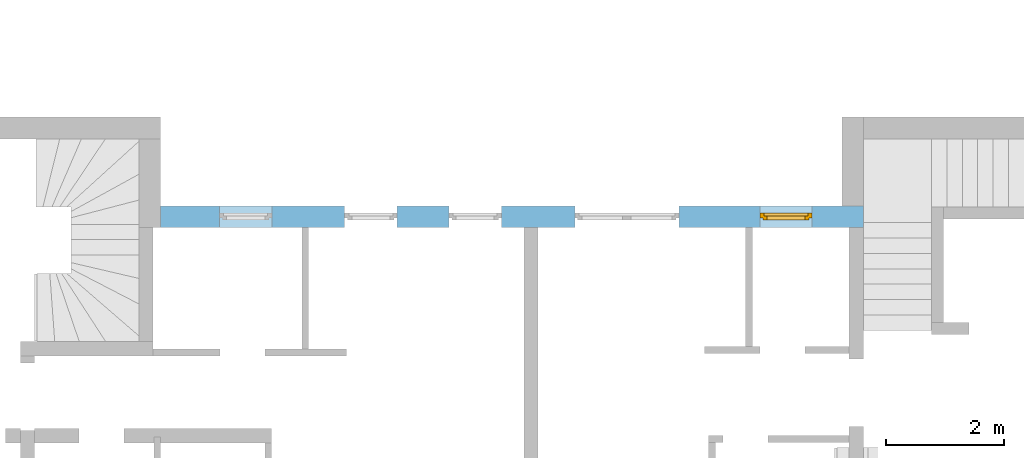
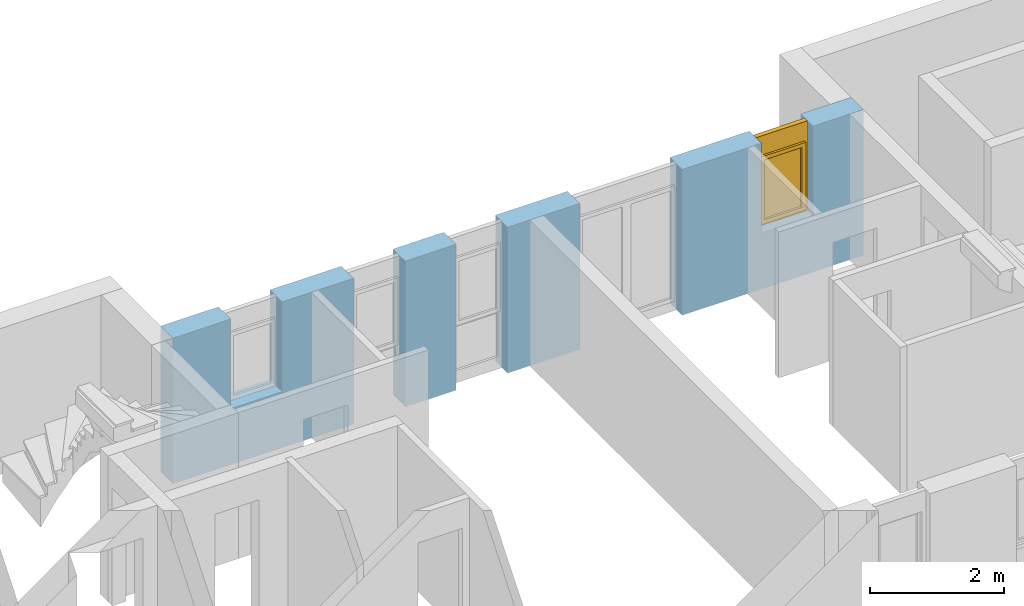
# One storey, part 37 of 42: 1 window, 5 openings, plus 1 element that does not belong to this part.
"""IFC2X3 building model written with IfcOpenShell, lengths in millimetres."""

from ifc_helpers import new_model, entity, si_unit, converted_unit, frame, frame_2d, origin, origin_with_axes, place, context, subcontext, project, spatial, rectangle, extrude, faceted_brep, material, layer, layer_set, layer_usage, type_object, element, fill, save


model = new_model("IFC2X3")

# Units and contexts
model_context = context("Model", 3, precision=1e-05, world=origin())
body_context = subcontext(model_context, "Body", "Model", "MODEL_VIEW")
ifc_project = project(units=[si_unit("LENGTHUNIT", "METRE", prefix="MILLI"), converted_unit("PLANEANGLEUNIT", "DEGREE", entity("IfcPlaneAngleMeasure", 0.0174532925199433), si_unit("PLANEANGLEUNIT", "RADIAN"), dimensions=[0, 0, 0, 0, 0, 0, 0]), si_unit("AREAUNIT", "SQUARE_METRE"), si_unit("VOLUMEUNIT", "CUBIC_METRE")], contexts=[model_context])

# Building, storey
building_placement = place(None, origin())
building = spatial("IfcBuilding", under=ifc_project, at=building_placement, Name="Gebäude", CompositionType="ELEMENT")
storey_placement = place(building_placement, frame((0.0, 0.0, 2730.0), z_axis=(0.0, 0.0, 1.0), x_axis=(1.0, 0.0, 0.0)))
storey = spatial("IfcBuildingStorey", under=building, at=storey_placement, Name="OG.- Grundriss", CompositionType="ELEMENT", Elevation=2730.0)

# Wall, openings, window
ifc_material_1 = material(Name="Poroton")
ifc_layer = layer(ifc_material_1, 365.0000000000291)
ifc_layer_set = layer_set([ifc_layer])
ifc_layer_usage = layer_usage(ifc_layer_set, "AXIS2", "POSITIVE", 0.0)
wall_placement = place(storey_placement, frame((176237.7928067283, 134774.8877324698, 0.0), z_axis=(0.0, 0.0, 1.0), x_axis=(-1.0, 0.0, 0.0)))
wall = element("IfcWallStandardCase", 1, at=wall_placement, inside=storey, material=ifc_layer_usage, Name="<Unnamed Element>", context=body_context, shape_type="SweptSolid", body=[
    extrude(rectangle(XDim=11869.99999999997, YDim=365.0000000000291, at=frame_2d((5934.999999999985, 182.5000000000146), x_axis=(1.0, 0.0))), origin_with_axes(), (0.0, 0.0, 1.0), 2650.0),
])
opening_1_placement = place(wall_placement, frame((7875.000000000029, 0.0, 0.0), z_axis=(0.0, 1.0, 0.0), x_axis=(0.0, 0.0, 1.0)))
element("IfcOpeningElement", 2, at=opening_1_placement, cuts=wall, Name="Fensteröffnung", ObjectType="Opening", context=body_context, shape_type="SweptSolid", body=[
    extrude(rectangle(XDim=2650.0, YDim=885.0, at=frame_2d((1325.0, 442.5), x_axis=(1.0, 0.0))), origin_with_axes(), (0.0, 0.0, 1.0), 365.0000000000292),
])
opening_2_placement = place(wall_placement, frame((6115.000000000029, 0.0, 0.0), z_axis=(0.0, 1.0, 0.0), x_axis=(0.0, 0.0, 1.0)))
element("IfcOpeningElement", 3, at=opening_2_placement, cuts=wall, Name="Fensteröffnung", ObjectType="Opening", context=body_context, shape_type="SweptSolid", body=[
    extrude(rectangle(XDim=2650.0, YDim=885.0, at=frame_2d((1325.0, 442.5), x_axis=(1.0, 0.0))), origin_with_axes(), (0.0, 0.0, 1.0), 365.0000000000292),
])
opening_3_placement = place(wall_placement, frame((9990.00000000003, 0.0, 1020.0), z_axis=(0.0, 1.0, 0.0), x_axis=(0.0, 0.0, 1.0)))
element("IfcOpeningElement", 4, at=opening_3_placement, cuts=wall, Name="Fensteröffnung", ObjectType="Opening", context=body_context, shape_type="SweptSolid", body=[
    extrude(rectangle(XDim=1630.0, YDim=885.0, at=frame_2d((815.0, 442.5), x_axis=(1.0, 0.0))), origin_with_axes(), (0.0, 0.0, 1.0), 365.0000000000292),
])
opening_4_placement = place(wall_placement, frame((3115.000000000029, 0.0, 0.0), z_axis=(0.0, 1.0, 0.0), x_axis=(0.0, 0.0, 1.0)))
element("IfcOpeningElement", 5, at=opening_4_placement, cuts=wall, Name="Fensteröffnung", ObjectType="Opening", context=body_context, shape_type="SweptSolid", body=[
    extrude(rectangle(XDim=2650.0, YDim=1760.0, at=frame_2d((1325.0, 880.0), x_axis=(1.0, 0.0))), origin_with_axes(), (0.0, 0.0, 1.0), 365.0000000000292),
])
opening_5_placement = place(wall_placement, frame((865.0000000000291, 0.0, 1020.0), z_axis=(0.0, 1.0, 0.0), x_axis=(0.0, 0.0, 1.0)))
opening_5 = element("IfcOpeningElement", 6, at=opening_5_placement, cuts=wall, Name="Fensteröffnung", ObjectType="Opening", context=body_context, shape_type="SweptSolid", body=[
    extrude(rectangle(XDim=1630.0, YDim=885.0, at=frame_2d((815.0, 442.5), x_axis=(1.0, 0.0))), origin_with_axes(), (0.0, 0.0, 1.0), 365.0000000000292),
])
ifc_material_2 = material()
window_style = type_object("IfcWindowStyle", Name="Fenster", ConstructionType="NOTDEFINED", OperationType="USERDEFINED", ParameterTakesPrecedence=False, Sizeable=False)
window_placement = place(opening_5_placement, frame((0.0, 0.0, 0.0), z_axis=(1.0, 0.0, 0.0), x_axis=(0.0, 1.0, 0.0)))
window = element("IfcWindow", 7, at=window_placement, inside=storey, type_object=window_style, material=ifc_material_2, Name="Fenster", OverallHeight=1630.0, OverallWidth=885.0, context=body_context, shape_type="Brep", body=[
    faceted_brep([(9.797174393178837e-15, 200.000000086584, 1630.0), (9.797174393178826e-15, 200.0000000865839, -2.449293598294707e-15), (70.00000000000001, 200.0000000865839, -2.449293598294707e-15), (70.00000000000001, 200.000000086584, 1630.0), (0.0, 120.0000000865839, 2.449293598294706e-15), (1.218229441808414e-29, 120.000000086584, 1630.0), (70.0, 120.000000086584, 1630.0), (70.0, 120.0000000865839, 2.449293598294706e-15), (9.797174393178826e-15, 200.0000000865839, -2.449293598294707e-15), (9.797174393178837e-15, 200.000000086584, 1630.0), (1.218229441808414e-29, 120.000000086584, 1630.0), (0.0, 120.0000000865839, 2.449293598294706e-15), (70.00000000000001, 200.0000000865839, -2.449293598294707e-15), (9.797174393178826e-15, 200.0000000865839, -2.449293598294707e-15), (0.0, 120.0000000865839, 2.449293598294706e-15), (70.0, 120.0000000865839, 2.449293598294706e-15), (70.00000000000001, 200.000000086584, 1630.0), (70.00000000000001, 200.0000000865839, -2.449293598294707e-15), (70.0, 120.0000000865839, 2.449293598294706e-15), (70.0, 120.000000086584, 1630.0), (9.797174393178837e-15, 200.000000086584, 1630.0), (70.00000000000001, 200.000000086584, 1630.0), (70.0, 120.000000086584, 1630.0), (1.218229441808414e-29, 120.000000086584, 1630.0)], [[[0, 1, 2, 3]], [[4, 5, 6, 7]], [[8, 9, 10, 11]], [[12, 13, 14, 15]], [[16, 17, 18, 19]], [[20, 21, 22, 23]]], orient=[[False], [False], [False], [False], [False], [False]]),
    faceted_brep([(815.0000000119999, 200.0000000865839, 1630.0), (815.0000000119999, 200.0000000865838, -2.449293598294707e-15), (885.0000000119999, 200.0000000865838, -2.449293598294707e-15), (885.0000000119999, 200.0000000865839, 1630.0), (815.0000000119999, 120.0000000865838, 2.449293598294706e-15), (815.0000000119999, 120.0000000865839, 1630.0), (885.0000000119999, 120.0000000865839, 1630.0), (885.0000000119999, 120.0000000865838, 2.449293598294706e-15), (815.0000000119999, 200.0000000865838, -2.449293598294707e-15), (815.0000000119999, 200.0000000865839, 1630.0), (815.0000000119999, 120.0000000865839, 1630.0), (815.0000000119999, 120.0000000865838, 2.449293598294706e-15), (885.0000000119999, 200.0000000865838, -2.449293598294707e-15), (815.0000000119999, 200.0000000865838, -2.449293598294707e-15), (815.0000000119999, 120.0000000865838, 2.449293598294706e-15), (885.0000000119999, 120.0000000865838, 2.449293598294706e-15), (885.0000000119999, 200.0000000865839, 1630.0), (885.0000000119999, 200.0000000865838, -2.449293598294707e-15), (885.0000000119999, 120.0000000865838, 2.449293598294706e-15), (885.0000000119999, 120.0000000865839, 1630.0), (815.0000000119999, 200.0000000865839, 1630.0), (885.0000000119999, 200.0000000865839, 1630.0), (885.0000000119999, 120.0000000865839, 1630.0), (815.0000000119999, 120.0000000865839, 1630.0)], [[[0, 1, 2, 3]], [[4, 5, 6, 7]], [[8, 9, 10, 11]], [[12, 13, 14, 15]], [[16, 17, 18, 19]], [[20, 21, 22, 23]]], orient=[[False], [False], [False], [False], [False], [False]]),
    faceted_brep([(70.00000000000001, 200.0000000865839, 69.99999999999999), (70.00000000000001, 200.0000000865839, -2.449293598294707e-15), (815.0000000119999, 200.0000000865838, -2.449293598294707e-15), (815.0000000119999, 200.0000000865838, 69.99999999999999), (70.0, 120.0000000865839, 2.449293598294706e-15), (70.0, 120.0000000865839, 69.99999999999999), (815.0000000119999, 120.0000000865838, 69.99999999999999), (815.0000000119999, 120.0000000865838, 2.449293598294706e-15), (70.00000000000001, 200.0000000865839, -2.449293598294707e-15), (70.00000000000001, 200.0000000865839, 69.99999999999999), (70.0, 120.0000000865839, 69.99999999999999), (70.0, 120.0000000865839, 2.449293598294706e-15), (815.0000000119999, 200.0000000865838, -2.449293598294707e-15), (70.00000000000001, 200.0000000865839, -2.449293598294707e-15), (70.0, 120.0000000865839, 2.449293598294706e-15), (815.0000000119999, 120.0000000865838, 2.449293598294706e-15), (815.0000000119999, 200.0000000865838, 69.99999999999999), (815.0000000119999, 200.0000000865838, -2.449293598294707e-15), (815.0000000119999, 120.0000000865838, 2.449293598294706e-15), (815.0000000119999, 120.0000000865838, 69.99999999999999), (70.00000000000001, 200.0000000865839, 69.99999999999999), (815.0000000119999, 200.0000000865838, 69.99999999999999), (815.0000000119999, 120.0000000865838, 69.99999999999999), (70.0, 120.0000000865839, 69.99999999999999)], [[[0, 1, 2, 3]], [[4, 5, 6, 7]], [[8, 9, 10, 11]], [[12, 13, 14, 15]], [[16, 17, 18, 19]], [[20, 21, 22, 23]]], orient=[[False], [False], [False], [False], [False], [False]]),
    faceted_brep([(70.00000000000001, 200.000000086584, 1630.0), (70.00000000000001, 200.000000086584, 1260.0), (815.0000000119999, 200.0000000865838, 1260.0), (815.0000000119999, 200.0000000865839, 1630.0), (70.0, 120.000000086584, 1260.0), (70.0, 120.000000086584, 1630.0), (815.0000000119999, 120.0000000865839, 1630.0), (815.0000000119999, 120.0000000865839, 1260.0), (70.00000000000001, 200.000000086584, 1260.0), (70.00000000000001, 200.000000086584, 1630.0), (70.0, 120.000000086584, 1630.0), (70.0, 120.000000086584, 1260.0), (815.0000000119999, 200.0000000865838, 1260.0), (70.00000000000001, 200.000000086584, 1260.0), (70.0, 120.000000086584, 1260.0), (815.0000000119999, 120.0000000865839, 1260.0), (815.0000000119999, 200.0000000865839, 1630.0), (815.0000000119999, 200.0000000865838, 1260.0), (815.0000000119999, 120.0000000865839, 1260.0), (815.0000000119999, 120.0000000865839, 1630.0), (70.00000000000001, 200.000000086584, 1630.0), (815.0000000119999, 200.0000000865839, 1630.0), (815.0000000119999, 120.0000000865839, 1630.0), (70.0, 120.000000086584, 1630.0)], [[[0, 1, 2, 3]], [[4, 5, 6, 7]], [[8, 9, 10, 11]], [[12, 13, 14, 15]], [[16, 17, 18, 19]], [[20, 21, 22, 23]]], orient=[[False], [False], [False], [False], [False], [False]]),
    faceted_brep([(50.00000000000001, 240.000000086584, 1280.0), (50.00000000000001, 240.0000000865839, 49.99999999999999), (120.0, 240.0000000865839, 49.99999999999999), (120.0, 240.000000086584, 1280.0), (50.00000000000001, 170.0000000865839, 50.0), (50.00000000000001, 170.000000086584, 1280.0), (120.0, 170.000000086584, 1280.0), (120.0, 170.0000000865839, 50.0), (50.00000000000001, 240.0000000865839, 49.99999999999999), (50.00000000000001, 240.000000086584, 1280.0), (50.00000000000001, 170.000000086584, 1280.0), (50.00000000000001, 170.0000000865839, 50.0), (120.0, 240.0000000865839, 49.99999999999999), (50.00000000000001, 240.0000000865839, 49.99999999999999), (50.00000000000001, 170.0000000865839, 50.0), (120.0, 170.0000000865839, 50.0), (120.0, 240.000000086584, 1280.0), (120.0, 240.0000000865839, 49.99999999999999), (120.0, 170.0000000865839, 50.0), (120.0, 170.000000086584, 1280.0), (50.00000000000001, 240.000000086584, 1280.0), (120.0, 240.000000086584, 1280.0), (120.0, 170.000000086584, 1280.0), (50.00000000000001, 170.000000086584, 1280.0)], [[[0, 1, 2, 3]], [[4, 5, 6, 7]], [[8, 9, 10, 11]], [[12, 13, 14, 15]], [[16, 17, 18, 19]], [[20, 21, 22, 23]]], orient=[[False], [False], [False], [False], [False], [False]]),
    faceted_brep([(765.0000000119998, 240.0000000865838, 1280.0), (765.0000000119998, 240.0000000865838, 49.99999999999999), (835.0000000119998, 240.0000000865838, 49.99999999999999), (835.0000000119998, 240.0000000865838, 1280.0), (765.0000000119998, 170.0000000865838, 50.0), (765.0000000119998, 170.0000000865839, 1280.0), (835.0000000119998, 170.0000000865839, 1280.0), (835.0000000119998, 170.0000000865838, 50.0), (765.0000000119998, 240.0000000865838, 49.99999999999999), (765.0000000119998, 240.0000000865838, 1280.0), (765.0000000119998, 170.0000000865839, 1280.0), (765.0000000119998, 170.0000000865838, 50.0), (835.0000000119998, 240.0000000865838, 49.99999999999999), (765.0000000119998, 240.0000000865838, 49.99999999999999), (765.0000000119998, 170.0000000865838, 50.0), (835.0000000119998, 170.0000000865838, 50.0), (835.0000000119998, 240.0000000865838, 1280.0), (835.0000000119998, 240.0000000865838, 49.99999999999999), (835.0000000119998, 170.0000000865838, 50.0), (835.0000000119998, 170.0000000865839, 1280.0), (765.0000000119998, 240.0000000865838, 1280.0), (835.0000000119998, 240.0000000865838, 1280.0), (835.0000000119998, 170.0000000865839, 1280.0), (765.0000000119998, 170.0000000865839, 1280.0)], [[[0, 1, 2, 3]], [[4, 5, 6, 7]], [[8, 9, 10, 11]], [[12, 13, 14, 15]], [[16, 17, 18, 19]], [[20, 21, 22, 23]]], orient=[[False], [False], [False], [False], [False], [False]]),
    faceted_brep([(120.0, 240.0000000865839, 120.0), (120.0, 240.0000000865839, 49.99999999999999), (765.0000000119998, 240.0000000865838, 49.99999999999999), (765.0000000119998, 240.0000000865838, 120.0), (120.0, 170.0000000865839, 50.0), (120.0, 170.0000000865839, 120.0), (765.0000000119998, 170.0000000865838, 120.0), (765.0000000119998, 170.0000000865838, 50.0), (120.0, 240.0000000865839, 49.99999999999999), (120.0, 240.0000000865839, 120.0), (120.0, 170.0000000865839, 120.0), (120.0, 170.0000000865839, 50.0), (765.0000000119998, 240.0000000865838, 49.99999999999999), (120.0, 240.0000000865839, 49.99999999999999), (120.0, 170.0000000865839, 50.0), (765.0000000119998, 170.0000000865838, 50.0), (765.0000000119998, 240.0000000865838, 120.0), (765.0000000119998, 240.0000000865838, 49.99999999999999), (765.0000000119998, 170.0000000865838, 50.0), (765.0000000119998, 170.0000000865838, 120.0), (120.0, 240.0000000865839, 120.0), (765.0000000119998, 240.0000000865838, 120.0), (765.0000000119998, 170.0000000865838, 120.0), (120.0, 170.0000000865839, 120.0)], [[[0, 1, 2, 3]], [[4, 5, 6, 7]], [[8, 9, 10, 11]], [[12, 13, 14, 15]], [[16, 17, 18, 19]], [[20, 21, 22, 23]]], orient=[[False], [False], [False], [False], [False], [False]]),
    faceted_brep([(120.0, 240.000000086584, 1280.0), (120.0, 240.000000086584, 1210.0), (765.0000000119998, 240.0000000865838, 1210.0), (765.0000000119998, 240.0000000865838, 1280.0), (120.0, 170.000000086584, 1210.0), (120.0, 170.000000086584, 1280.0), (765.0000000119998, 170.0000000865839, 1280.0), (765.0000000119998, 170.0000000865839, 1210.0), (120.0, 240.000000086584, 1210.0), (120.0, 240.000000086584, 1280.0), (120.0, 170.000000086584, 1280.0), (120.0, 170.000000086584, 1210.0), (765.0000000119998, 240.0000000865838, 1210.0), (120.0, 240.000000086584, 1210.0), (120.0, 170.000000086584, 1210.0), (765.0000000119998, 170.0000000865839, 1210.0), (765.0000000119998, 240.0000000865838, 1280.0), (765.0000000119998, 240.0000000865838, 1210.0), (765.0000000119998, 170.0000000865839, 1210.0), (765.0000000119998, 170.0000000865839, 1280.0), (120.0, 240.000000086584, 1280.0), (765.0000000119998, 240.0000000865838, 1280.0), (765.0000000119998, 170.0000000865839, 1280.0), (120.0, 170.000000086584, 1280.0)], [[[0, 1, 2, 3]], [[4, 5, 6, 7]], [[8, 9, 10, 11]], [[12, 13, 14, 15]], [[16, 17, 18, 19]], [[20, 21, 22, 23]]], orient=[[False], [False], [False], [False], [False], [False]]),
    faceted_brep([(120.0, 205.0000000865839, 120.0), (765.0000000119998, 205.0000000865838, 120.0), (765.0000000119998, 205.0000000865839, 1210.0), (120.0, 205.000000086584, 1210.0), (120.0, 204.0000000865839, 120.0), (120.0, 204.000000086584, 1210.0), (765.0000000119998, 204.0000000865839, 1210.0), (765.0000000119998, 204.0000000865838, 120.0), (120.0, 205.0000000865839, 120.0), (120.0, 204.0000000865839, 120.0), (765.0000000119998, 204.0000000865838, 120.0), (765.0000000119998, 205.0000000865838, 120.0), (765.0000000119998, 205.0000000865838, 120.0), (765.0000000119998, 204.0000000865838, 120.0), (765.0000000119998, 204.0000000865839, 1210.0), (765.0000000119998, 205.0000000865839, 1210.0), (765.0000000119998, 205.0000000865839, 1210.0), (765.0000000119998, 204.0000000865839, 1210.0), (120.0, 204.000000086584, 1210.0), (120.0, 205.000000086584, 1210.0), (120.0, 205.000000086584, 1210.0), (120.0, 204.000000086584, 1210.0), (120.0, 204.0000000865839, 120.0), (120.0, 205.0000000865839, 120.0)], [[[0, 1, 2, 3]], [[4, 5, 6, 7]], [[8, 9, 10, 11]], [[12, 13, 14, 15]], [[16, 17, 18, 19]], [[20, 21, 22, 23]]], orient=[[False], [False], [False], [False], [False], [False]]),
])
fill(opening_5, window)

save(model, "model.ifc")
